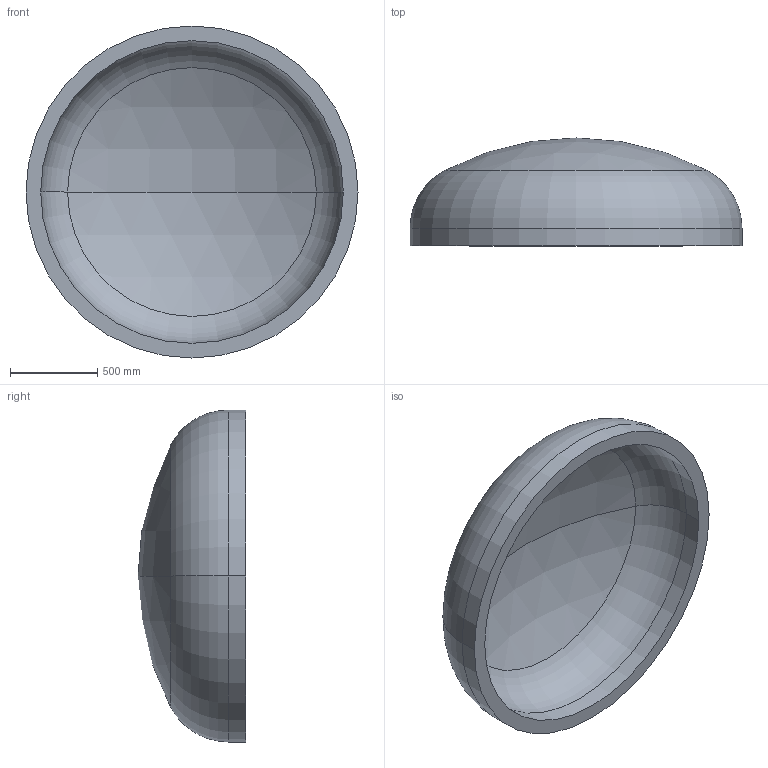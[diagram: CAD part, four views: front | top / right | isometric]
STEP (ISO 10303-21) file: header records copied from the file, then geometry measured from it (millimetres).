
FILE_DESCRIPTION (( 'STEP AP203' ), '1' );
FILE_NAME ('DIN 28013 Korbbogenform_-_Boden DIN 28013 - 1900 x 100 - I - s=84.step', '2016-07-01T13:21:34', ( '' ), ( '' ), 'SwSTEP 2.0', 'SolidWorks 2013', '' );
FILE_SCHEMA (( 'CONFIG_CONTROL_DESIGN' ));
Length unit declared in the file: millimetre
Products named in the file (1): DIN 28013 Korbbogenform_-_Boden DIN 28013 - 1900 x 100 - I - s=84
Bounding box: 1900 x 617.2 x 1900 mm (x, y, z)
Volume: 358911202.3 mm3; surface area: 9039511.6 mm2
Topology: 1 solids, 1 shells, 13 faces, 24 edges, 14 vertices
Faces by surface type: torus 4, cylinder 4, sphere 4, plane 1
Entity records: 407 total; most frequent: DIRECTION 72, CARTESIAN_POINT 52, ORIENTED_EDGE 48, AXIS2_PLACEMENT_3D 34, EDGE_CURVE 24, CIRCLE 20, EDGE_LOOP 14, VERTEX_POINT 14
